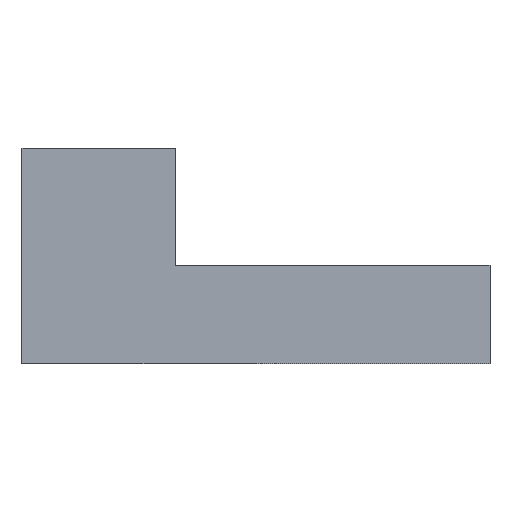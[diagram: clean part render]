
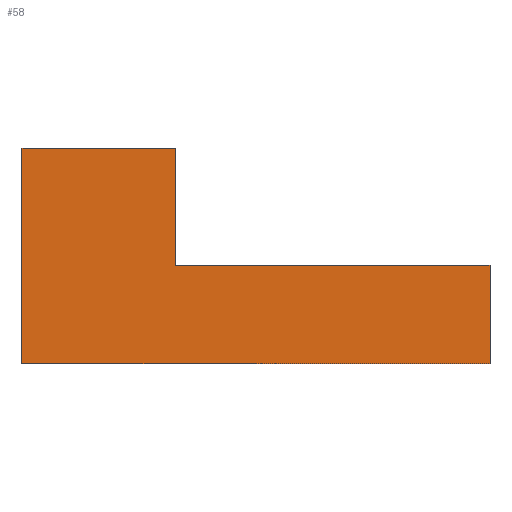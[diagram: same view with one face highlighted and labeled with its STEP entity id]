
A CAD part, left-side view. The second image highlights one B-rep face of the part: STEP entity #58.
In plain terms, the highlighted planar face has unit normal (-1, 0, 0).
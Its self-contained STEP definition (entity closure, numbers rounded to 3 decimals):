
#58=ADVANCED_FACE('',(#184),#186,.T.);
#184=FACE_BOUND('',#185,.T.);
#185=EDGE_LOOP('',(#290,#291,#292,#293,#294,#295));
#186=PLANE('',#187);
#187=AXIS2_PLACEMENT_3D('',#188,#189,#190);
#188=CARTESIAN_POINT('',(-2.5,3.8,2.2));
#189=DIRECTION('',(-1.,0.,0.));
#190=DIRECTION('',(0.,-1.,0.));
#290=ORIENTED_EDGE('',*,*,#354,.T.);
#291=ORIENTED_EDGE('',*,*,#355,.F.);
#292=ORIENTED_EDGE('',*,*,#356,.F.);
#293=ORIENTED_EDGE('',*,*,#357,.T.);
#294=ORIENTED_EDGE('',*,*,#358,.T.);
#295=ORIENTED_EDGE('',*,*,#359,.F.);
#354=EDGE_CURVE('',#386,#387,#388,.T.);
#355=EDGE_CURVE('',#389,#387,#390,.T.);
#356=EDGE_CURVE('',#391,#389,#392,.T.);
#357=EDGE_CURVE('',#391,#393,#394,.T.);
#358=EDGE_CURVE('',#393,#395,#396,.T.);
#359=EDGE_CURVE('',#386,#395,#397,.T.);
#386=VERTEX_POINT('',#440);
#387=VERTEX_POINT('',#441);
#388=LINE('',#442,#443);
#389=VERTEX_POINT('',#445);
#390=LINE('',#446,#447);
#391=VERTEX_POINT('',#449);
#392=LINE('',#450,#451);
#393=VERTEX_POINT('',#453);
#394=LINE('',#454,#455);
#395=VERTEX_POINT('',#457);
#396=LINE('',#458,#459);
#397=LINE('',#461,#462);
#440=CARTESIAN_POINT('',(-2.5,1.3,1.6));
#441=CARTESIAN_POINT('',(-2.5,1.3,3.5));
#442=CARTESIAN_POINT('',(-2.5,1.3,1.6));
#443=VECTOR('',#444,1.);
#444=DIRECTION('',(0.,0.,1.));
#445=CARTESIAN_POINT('',(-2.5,3.8,3.5));
#446=CARTESIAN_POINT('',(-2.5,3.8,3.5));
#447=VECTOR('',#448,1.);
#448=DIRECTION('',(0.,-1.,0.));
#449=CARTESIAN_POINT('',(-2.5,3.8,0.));
#450=CARTESIAN_POINT('',(-2.5,3.8,0.));
#451=VECTOR('',#452,1.);
#452=DIRECTION('',(0.,0.,1.));
#453=CARTESIAN_POINT('',(-2.5,-3.8,0.));
#454=CARTESIAN_POINT('',(-2.5,3.8,0.));
#455=VECTOR('',#456,1.);
#456=DIRECTION('',(0.,-1.,0.));
#457=CARTESIAN_POINT('',(-2.5,-3.8,1.6));
#458=CARTESIAN_POINT('',(-2.5,-3.8,0.));
#459=VECTOR('',#460,1.);
#460=DIRECTION('',(0.,0.,1.));
#461=CARTESIAN_POINT('',(-2.5,1.3,1.6));
#462=VECTOR('',#463,1.);
#463=DIRECTION('',(0.,-1.,0.));
